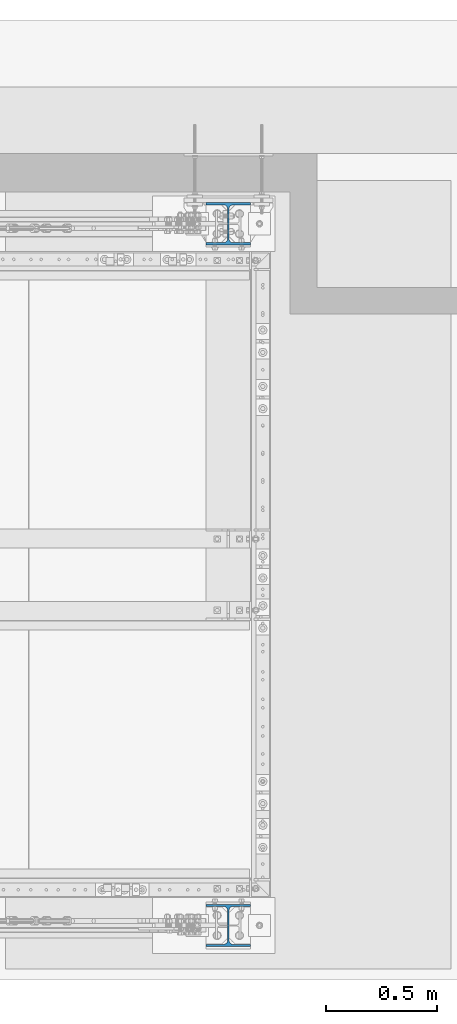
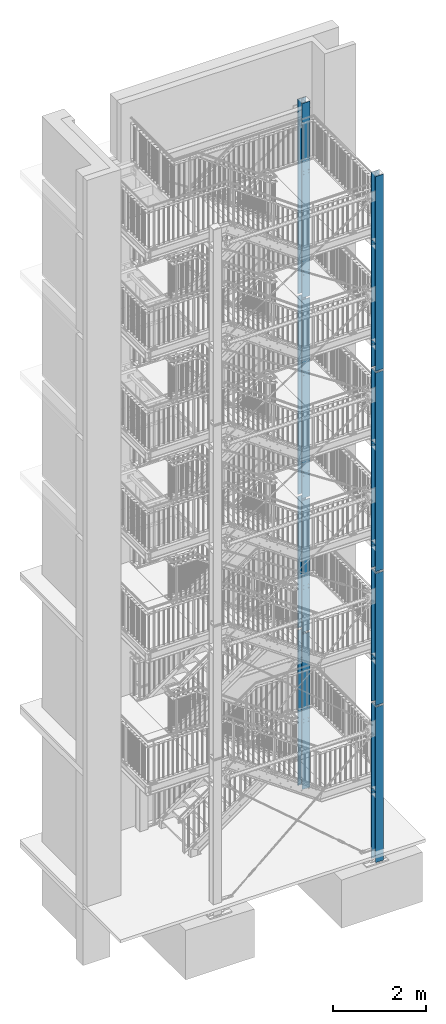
# One storey, part 2 of 825: 8 columns, 58 openings.
"""IFC2X3 building model written with IfcOpenShell, lengths in millimetres."""

import ifcopenshell
import ifcopenshell.guid

model = None  # the IFC model being written
_history = None  # IfcOwnerHistory: only IFC2X3 demands one
_inside = {}  # id of a spatial element -> (the spatial element, [elements in it])
_under = {}  # id of a project, library or spatial element -> (it, [spatial elements below it])
_declared = {}  # id of a project -> (the project, [libraries it declares])
_typed = {}  # id of a type object -> (the type object, [elements of that type])
_made_of = {}  # id of a material, layer set ... -> (it, [elements and type objects made of it])


def new_model(schema):
    """Start an empty IFC model of exactly this schema.

    Asked for "IFC4X3", IfcOpenShell would pick the latest addendum, in which some entities
    have other attributes; the version numbers below select the first issue.
    IFC2X3 requires an IfcOwnerHistory on every rooted entity: one is made here for all.
    """
    global model, _history
    if schema == "IFC4X3":
        model = ifcopenshell.file(schema_version=(4, 3, 0, 0))
    else:
        model = ifcopenshell.file(schema=schema)
    _inside.clear()
    _under.clear()
    _declared.clear()
    _typed.clear()
    _made_of.clear()
    _history = None
    if model.schema == "IFC2X3":
        org = make("IfcOrganization", Name="unknown")
        user = make(
            "IfcPersonAndOrganization",
            ThePerson=make("IfcPerson", FamilyName="unknown"),
            TheOrganization=org,
        )
        app = make(
            "IfcApplication",
            ApplicationDeveloper=org,
            Version="unknown",
            ApplicationFullName="unknown",
            ApplicationIdentifier="unknown",
        )
        _history = make(
            "IfcOwnerHistory",
            OwningUser=user,
            OwningApplication=app,
            ChangeAction="ADDED",
            CreationDate=0,
        )
    return model


def make(cls, **values):
    """One entity of the class cls with the attributes given. An attribute that is None is left unset."""
    return model.create_entity(
        cls, **{name: value for name, value in values.items() if value is not None}
    )


def entity(cls, *values):
    """Any entity or typed value of the class cls, its attributes in the order of the schema. None: left unset."""
    e = model.create_entity(cls)
    for i, value in enumerate(values):
        if value is not None:
            e[i] = value
    return e


def rooted(cls, **values):
    """An entity with a GlobalId (a new one), such as an element, a storey or a relation."""
    return make(cls, GlobalId=ifcopenshell.guid.new(), OwnerHistory=_history, **values)


def si_unit(unit_type, name, prefix=None):
    """IfcSIUnit, for example si_unit("LENGTHUNIT", "METRE", prefix="MILLI")."""
    return make("IfcSIUnit", UnitType=unit_type, Prefix=prefix, Name=name)


def converted_unit(unit_type, name, factor, base, dimensions=None, offset=None):
    """IfcConversionBasedUnit, such as the inch: factor (a typed value) times the base unit."""
    return make(
        "IfcConversionBasedUnit"
        if offset is None
        else "IfcConversionBasedUnitWithOffset",
        ConversionOffset=offset,
        Dimensions=None
        if dimensions is None
        else entity("IfcDimensionalExponents", *dimensions),
        UnitType=unit_type,
        Name=name,
        ConversionFactor=make(
            "IfcMeasureWithUnit", ValueComponent=factor, UnitComponent=base
        ),
    )


def assignment(units):
    """IfcUnitAssignment: the units of a project."""
    return None if units is None else make("IfcUnitAssignment", Units=units)


def point(xyz):
    """IfcCartesianPoint."""
    return None if xyz is None else make("IfcCartesianPoint", Coordinates=xyz)


def direction(xyz):
    """IfcDirection."""
    return None if xyz is None else make("IfcDirection", DirectionRatios=xyz)


def frame(location, z_axis=None, x_axis=None):
    """IfcAxis2Placement3D, a coordinate frame: its origin and axes. An axis left out is left unset."""
    return make(
        "IfcAxis2Placement3D",
        Location=point(location),
        Axis=direction(z_axis),
        RefDirection=direction(x_axis),
    )


def frame_2d(location, x_axis=None):
    """IfcAxis2Placement2D, a coordinate frame in the plane: its origin and x axis."""
    return make(
        "IfcAxis2Placement2D", Location=point(location), RefDirection=direction(x_axis)
    )


def origin():
    """The frame at (0, 0, 0) with its axes left unset."""
    return frame((0.0, 0.0, 0.0))


def origin_with_axes():
    """The frame at (0, 0, 0) with the z axis (0, 0, 1) and the x axis (1, 0, 0) written out."""
    return frame((0.0, 0.0, 0.0), z_axis=(0.0, 0.0, 1.0), x_axis=(1.0, 0.0, 0.0))


def origin_2d():
    """The frame at (0, 0) in the plane with its x axis left unset."""
    return frame_2d((0.0, 0.0))


def origin_2d_with_axis():
    """The frame at (0, 0) in the plane with the x axis (1, 0) written out."""
    return frame_2d((0.0, 0.0), x_axis=(1.0, 0.0))


def place(relative_to, where):
    """IfcLocalPlacement: puts the frame where relative to a parent placement (None: the world)."""
    return make(
        "IfcLocalPlacement", PlacementRelTo=relative_to, RelativePlacement=where
    )


def context(
    kind, dimensions, precision=None, world=None, true_north=None, identifier=None
):
    """IfcGeometricRepresentationContext, for example the 3D "Model" context."""
    return make(
        "IfcGeometricRepresentationContext",
        ContextIdentifier=identifier,
        ContextType=kind,
        CoordinateSpaceDimension=dimensions,
        Precision=precision,
        WorldCoordinateSystem=world,
        TrueNorth=true_north,
    )


def project(units=None, contexts=None):
    """IfcProject with its units and contexts."""
    return rooted(
        "IfcProject",
        Name="project",
        RepresentationContexts=contexts,
        UnitsInContext=assignment(units),
    )


def spatial(cls, under=None, at=None, **own):
    """A site, building, storey or space (cls), placed at a placement, below another one or the project."""
    s = rooted(cls, ObjectPlacement=at, **own)
    if under is not None:
        _under.setdefault(under.id(), (under, []))[1].append(s)
    return s


def profile(cls, at=None, kind="AREA", **sizes):
    """A parametric profile (cls). Its sizes go by their IFC names, for example OverallWidth=200.0."""
    return make(cls, ProfileType=kind, Position=at, **sizes)


def circle(**sizes):
    """IfcCircleProfileDef."""
    return profile("IfcCircleProfileDef", **sizes)


def i_section(**sizes):
    """IfcIShapeProfileDef."""
    return profile("IfcIShapeProfileDef", **sizes)


def extrude(swept, where, along, depth):
    """IfcExtrudedAreaSolid: the profile swept, set in the frame where, extruded along a direction by depth."""
    return make(
        "IfcExtrudedAreaSolid",
        SweptArea=swept,
        Position=where,
        ExtrudedDirection=direction(along),
        Depth=depth,
    )


def clip(a, b, op="DIFFERENCE"):
    """IfcBooleanClippingResult: the solid a cut by the half space b."""
    return make(
        "IfcBooleanClippingResult", Operator=op, FirstOperand=a, SecondOperand=b
    )


def halfspace(plane, agree):
    """IfcHalfSpaceSolid: all space on one side of the plane z = 0 of the frame plane."""
    return make(
        "IfcHalfSpaceSolid",
        BaseSurface=make("IfcPlane", Position=plane),
        AgreementFlag=agree,
    )


def shape(context_of_items, identifier, shape_type, items):
    """IfcShapeRepresentation: the items that make up one representation, for example the "Body"."""
    return make(
        "IfcShapeRepresentation",
        ContextOfItems=context_of_items,
        RepresentationIdentifier=identifier,
        RepresentationType=shape_type,
        Items=items,
    )


def material(Name=None, Category=None):
    """IfcMaterial."""
    return make("IfcMaterial", Name=Name, Category=Category)


def made_of(thing, what):
    """Note that an element or type object is made of a material, layer set ...; save() writes the relation."""
    if what is not None:
        _made_of.setdefault(what.id(), (what, []))[1].append(thing)
    return thing


def element(
    cls,
    number,
    at=None,
    inside=None,
    cuts=None,
    type_object=None,
    material=None,
    context=None,
    identifier="Body",
    shape_type=None,
    held_by="IfcProductDefinitionShape",
    body=None,
    shapes=None,
    **own,
):
    """One element of the class cls, such as IfcWall. Its Tag is "e" and its number.

    at: its placement. inside: the storey or other place that contains it. cuts: it is an
    opening in that element (IfcRelVoidsElement). A single representation is given by context,
    identifier, shape_type and body (its items); several are given by shapes. held_by: the class
    of the entity that holds the representations. save() writes the other relations.
    """
    e = rooted(cls, Tag="e%d" % number, ObjectPlacement=at, **own)
    if body is not None:
        shapes = [shape(context, identifier, shape_type, body)]
    if shapes is not None:
        e.Representation = make(held_by, Representations=shapes)
    if inside is not None:
        _inside.setdefault(inside.id(), (inside, []))[1].append(e)
    if cuts is not None:
        rooted(
            "IfcRelVoidsElement", RelatingBuildingElement=cuts, RelatedOpeningElement=e
        )
    if type_object is not None:
        _typed.setdefault(type_object.id(), (type_object, []))[1].append(e)
    return made_of(e, material)


def aggregate(whole, parts):
    """IfcRelAggregates: a whole, such as a stair, and the parts it consists of."""
    return rooted("IfcRelAggregates", RelatingObject=whole, RelatedObjects=parts)


def save(model, path):
    """Write the relations noted so far, then the file.

    IfcRelAggregates (storeys below a building ...), IfcRelContainedInSpatialStructure (elements
    in a storey), IfcRelDefinesByType, IfcRelAssociatesMaterial and IfcRelDeclares: one each for
    every whole, place, type object, material and project.
    """
    for whole, parts in _under.values():
        aggregate(whole, parts)
    for where, things in _inside.values():
        rooted(
            "IfcRelContainedInSpatialStructure",
            RelatedElements=things,
            RelatingStructure=where,
        )
    for kind, things in _typed.values():
        rooted("IfcRelDefinesByType", RelatedObjects=things, RelatingType=kind)
    for what, things in _made_of.values():
        rooted("IfcRelAssociatesMaterial", RelatedObjects=things, RelatingMaterial=what)
    for by, libraries in _declared.values():
        rooted("IfcRelDeclares", RelatingContext=by, RelatedDefinitions=libraries)
    model.write(path)


model = new_model("IFC2X3")

# Units and contexts
model_context = context("Model", 3, precision=1e-09, world=origin_with_axes())
ifc_project = project(units=[si_unit("LENGTHUNIT", "METRE", prefix="MILLI"), si_unit("AREAUNIT", "SQUARE_METRE"), si_unit("VOLUMEUNIT", "CUBIC_METRE"), converted_unit("PLANEANGLEUNIT", "DEGREE", entity("IfcPlaneAngleMeasure", 0.01745329), si_unit("PLANEANGLEUNIT", "RADIAN"), dimensions=[0, 0, 0, 0, 0, 0, 0])], contexts=[model_context])

# Site, building, storey
site_placement = place(None, origin_with_axes())
site = spatial("IfcSite", under=ifc_project, at=site_placement, Name="Cnopf'sche Kinderklinik", CompositionType="ELEMENT")
building_placement = place(site_placement, origin_with_axes())
building = spatial("IfcBuilding", under=site, at=building_placement, Name="Struktur 1", CompositionType="ELEMENT")
storey_placement = place(building_placement, origin_with_axes())
storey = spatial("IfcBuildingStorey", under=building, at=storey_placement, Name="Default Storey", CompositionType="ELEMENT", Elevation=0.0)

# Column, openings
ifc_material = material(Name="S235JR")
column_1_placement = place(None, frame((8866.713402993, 7516.736971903, 60.0), z_axis=(0.0, 0.0, -1.0), x_axis=(-1.0, 0.0, 0.0)))
column_1 = element("IfcColumn", 1, at=column_1_placement, inside=storey, material=ifc_material, Name="Column", ObjectType="Column", context=model_context, shape_type="Clipping", body=[
    clip(extrude(i_section(OverallWidth=200.0, OverallDepth=190.0, WebThickness=6.5, FlangeThickness=10.0, FilletRadius=18.0, at=origin_2d()), origin(), (0.0, 0.0, -1.0), 4227.931142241), halfspace(frame((8866.713402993, -7516.736971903, -4064.999), z_axis=(0.0, 0.0, 1.0), x_axis=(1.0, 0.0, 0.0)), True)),
])
opening_1_placement = place(column_1_placement, frame((-3.75, 60.0, -12.0), z_axis=(1.0, 0.0, 0.0), x_axis=(0.0, 0.0, -1.0)))
element("IfcOpeningElement", 2, at=opening_1_placement, cuts=column_1, ObjectType="Opening", context=model_context, shape_type="SweptSolid", body=[
    extrude(circle(Radius=6.001, at=origin_2d_with_axis()), origin(), (0.0, 0.0, 1.0), 7.5),
])
opening_2_placement = place(column_1_placement, frame((-3.75, -60.0, -12.0), z_axis=(1.0, 0.0, 0.0), x_axis=(0.0, 0.0, -1.0)))
element("IfcOpeningElement", 3, at=opening_2_placement, cuts=column_1, ObjectType="Opening", context=model_context, shape_type="SweptSolid", body=[
    extrude(circle(Radius=6.001, at=origin_2d_with_axis()), origin(), (0.0, 0.0, 1.0), 7.5),
])
opening_3_placement = place(column_1_placement, frame((60.0, -84.5, -1831.0526312), z_axis=(0.0, -1.0, 0.0), x_axis=(1.0, 0.0, 0.0)))
element("IfcOpeningElement", 4, at=opening_3_placement, cuts=column_1, ObjectType="Opening", context=model_context, shape_type="SweptSolid", body=[
    extrude(circle(Radius=9.001, at=origin_2d_with_axis()), origin(), (0.0, 0.0, 1.0), 11.0),
])
opening_4_placement = place(column_1_placement, frame((60.0, -84.5, -1741.0526312), z_axis=(0.0, -1.0, 0.0), x_axis=(1.0, 0.0, 0.0)))
element("IfcOpeningElement", 5, at=opening_4_placement, cuts=column_1, ObjectType="Opening", context=model_context, shape_type="SweptSolid", body=[
    extrude(circle(Radius=9.001, at=origin_2d_with_axis()), origin(), (0.0, 0.0, 1.0), 11.0),
])
opening_5_placement = place(column_1_placement, frame((-60.0, -84.5, -1741.0526312), z_axis=(0.0, -1.0, 0.0), x_axis=(-1.0, 0.0, 0.0)))
element("IfcOpeningElement", 6, at=opening_5_placement, cuts=column_1, ObjectType="Opening", context=model_context, shape_type="SweptSolid", body=[
    extrude(circle(Radius=9.001, at=origin_2d_with_axis()), origin(), (0.0, 0.0, 1.0), 11.0),
])
opening_6_placement = place(column_1_placement, frame((-60.0, -84.5, -1831.0526312), z_axis=(0.0, -1.0, 0.0), x_axis=(-1.0, 0.0, 0.0)))
element("IfcOpeningElement", 7, at=opening_6_placement, cuts=column_1, ObjectType="Opening", context=model_context, shape_type="SweptSolid", body=[
    extrude(circle(Radius=9.001, at=origin_2d_with_axis()), origin(), (0.0, 0.0, 1.0), 11.0),
])

column_2_placement = place(None, frame((8866.713402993, 4366.736971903, 60.0), z_axis=(0.0, 0.0, -1.0), x_axis=(-1.0, 0.0, 0.0)))
column_2 = element("IfcColumn", 8, at=column_2_placement, inside=storey, material=ifc_material, Name="Column", ObjectType="Column", context=model_context, shape_type="Clipping", body=[
    clip(extrude(i_section(OverallWidth=200.0, OverallDepth=190.0, WebThickness=6.5, FlangeThickness=10.0, FilletRadius=18.0, at=origin_2d()), origin(), (0.0, 0.0, -1.0), 4227.931142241), halfspace(frame((8866.713402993, -4366.736971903, -4064.999), z_axis=(0.0, 0.0, 1.0), x_axis=(1.0, 0.0, 0.0)), True)),
])
opening_7_placement = place(column_2_placement, frame((-3.75, 60.0, -12.0), z_axis=(1.0, 0.0, 0.0), x_axis=(0.0, 0.0, -1.0)))
element("IfcOpeningElement", 9, at=opening_7_placement, cuts=column_2, ObjectType="Opening", context=model_context, shape_type="SweptSolid", body=[
    extrude(circle(Radius=6.001, at=origin_2d_with_axis()), origin(), (0.0, 0.0, 1.0), 7.5),
])
opening_8_placement = place(column_2_placement, frame((-3.75, -60.0, -12.0), z_axis=(1.0, 0.0, 0.0), x_axis=(0.0, 0.0, -1.0)))
element("IfcOpeningElement", 10, at=opening_8_placement, cuts=column_2, ObjectType="Opening", context=model_context, shape_type="SweptSolid", body=[
    extrude(circle(Radius=6.001, at=origin_2d_with_axis()), origin(), (0.0, 0.0, 1.0), 7.5),
])
opening_9_placement = place(column_2_placement, frame((60.0, 84.5, -1831.0526312), z_axis=(0.0, 1.0, 0.0), x_axis=(1.0, 0.0, 0.0)))
element("IfcOpeningElement", 11, at=opening_9_placement, cuts=column_2, ObjectType="Opening", context=model_context, shape_type="SweptSolid", body=[
    extrude(circle(Radius=9.001, at=origin_2d_with_axis()), origin(), (0.0, 0.0, 1.0), 11.0),
])
opening_10_placement = place(column_2_placement, frame((60.0, 84.5, -1741.0526312), z_axis=(0.0, 1.0, 0.0), x_axis=(1.0, 0.0, 0.0)))
element("IfcOpeningElement", 12, at=opening_10_placement, cuts=column_2, ObjectType="Opening", context=model_context, shape_type="SweptSolid", body=[
    extrude(circle(Radius=9.001, at=origin_2d_with_axis()), origin(), (0.0, 0.0, 1.0), 11.0),
])
opening_11_placement = place(column_2_placement, frame((-60.0, 84.5, -1741.0526312), z_axis=(0.0, 1.0, 0.0), x_axis=(-1.0, 0.0, 0.0)))
element("IfcOpeningElement", 13, at=opening_11_placement, cuts=column_2, ObjectType="Opening", context=model_context, shape_type="SweptSolid", body=[
    extrude(circle(Radius=9.001, at=origin_2d_with_axis()), origin(), (0.0, 0.0, 1.0), 11.0),
])
opening_12_placement = place(column_2_placement, frame((-60.0, 84.5, -1831.0526312), z_axis=(0.0, 1.0, 0.0), x_axis=(-1.0, 0.0, 0.0)))
element("IfcOpeningElement", 14, at=opening_12_placement, cuts=column_2, ObjectType="Opening", context=model_context, shape_type="SweptSolid", body=[
    extrude(circle(Radius=9.001, at=origin_2d_with_axis()), origin(), (0.0, 0.0, 1.0), 11.0),
])

column_3_placement = place(None, frame((8866.713402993, 4366.736971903, 4012.068857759), z_axis=(0.0, 0.0, -1.0), x_axis=(-1.0, 0.0, 0.0)))
column_3 = element("IfcColumn", 15, at=column_3_placement, inside=storey, material=ifc_material, Name="Column", ObjectType="Column", context=model_context, shape_type="Clipping", body=[
    clip(clip(extrude(i_section(OverallWidth=200.0, OverallDepth=190.0, WebThickness=6.5, FlangeThickness=10.0, FilletRadius=18.0, at=origin_2d()), origin(), (0.0, 0.0, -1.0), 3775.862284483), halfspace(frame((8866.713402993, -4366.736971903, -162.932142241), z_axis=(0.0, 0.0, -1.0), x_axis=(-1.0, 0.0, 0.0)), True)), halfspace(frame((8866.713402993, -4366.736971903, -3612.930142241), z_axis=(0.0, 0.0, 1.0), x_axis=(1.0, 0.0, 0.0)), True)),
])
opening_13_placement = place(column_3_placement, frame((60.0, 84.5, -1372.825878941), z_axis=(0.0, 1.0, 0.0), x_axis=(1.0, 0.0, 0.0)))
element("IfcOpeningElement", 16, at=opening_13_placement, cuts=column_3, ObjectType="Opening", context=model_context, shape_type="SweptSolid", body=[
    extrude(circle(Radius=9.001, at=origin_2d_with_axis()), origin(), (0.0, 0.0, 1.0), 11.0),
])
opening_14_placement = place(column_3_placement, frame((60.0, 84.5, -1282.825878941), z_axis=(0.0, 1.0, 0.0), x_axis=(1.0, 0.0, 0.0)))
element("IfcOpeningElement", 17, at=opening_14_placement, cuts=column_3, ObjectType="Opening", context=model_context, shape_type="SweptSolid", body=[
    extrude(circle(Radius=9.001, at=origin_2d_with_axis()), origin(), (0.0, 0.0, 1.0), 11.0),
])
opening_15_placement = place(column_3_placement, frame((-60.0, 84.5, -1372.825878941), z_axis=(0.0, 1.0, 0.0), x_axis=(-1.0, 0.0, 0.0)))
element("IfcOpeningElement", 18, at=opening_15_placement, cuts=column_3, ObjectType="Opening", context=model_context, shape_type="SweptSolid", body=[
    extrude(circle(Radius=9.001, at=origin_2d_with_axis()), origin(), (0.0, 0.0, 1.0), 11.0),
])
opening_16_placement = place(column_3_placement, frame((-60.0, 84.5, -1282.825878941), z_axis=(0.0, 1.0, 0.0), x_axis=(-1.0, 0.0, 0.0)))
element("IfcOpeningElement", 19, at=opening_16_placement, cuts=column_3, ObjectType="Opening", context=model_context, shape_type="SweptSolid", body=[
    extrude(circle(Radius=9.001, at=origin_2d_with_axis()), origin(), (0.0, 0.0, 1.0), 11.0),
])

column_4_placement = place(None, frame((8866.713402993, 7516.736971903, 4012.068857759), z_axis=(0.0, 0.0, -1.0), x_axis=(-1.0, 0.0, 0.0)))
column_4 = element("IfcColumn", 20, at=column_4_placement, inside=storey, material=ifc_material, Name="Column", ObjectType="Column", context=model_context, shape_type="Clipping", body=[
    clip(clip(extrude(i_section(OverallWidth=200.0, OverallDepth=190.0, WebThickness=6.5, FlangeThickness=10.0, FilletRadius=18.0, at=origin_2d()), origin(), (0.0, 0.0, -1.0), 3775.862284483), halfspace(frame((8866.713402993, -7516.736971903, -162.932142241), z_axis=(0.0, 0.0, -1.0), x_axis=(-1.0, 0.0, 0.0)), True)), halfspace(frame((8866.713402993, -7516.736971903, -3612.930142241), z_axis=(0.0, 0.0, 1.0), x_axis=(1.0, 0.0, 0.0)), True)),
])
opening_17_placement = place(column_4_placement, frame((-60.0, -84.5, -1372.825878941), z_axis=(0.0, -1.0, 0.0), x_axis=(-1.0, 0.0, 0.0)))
element("IfcOpeningElement", 21, at=opening_17_placement, cuts=column_4, ObjectType="Opening", context=model_context, shape_type="SweptSolid", body=[
    extrude(circle(Radius=9.001, at=origin_2d_with_axis()), origin(), (0.0, 0.0, 1.0), 11.0),
])
opening_18_placement = place(column_4_placement, frame((-60.0, -84.5, -1282.825878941), z_axis=(0.0, -1.0, 0.0), x_axis=(-1.0, 0.0, 0.0)))
element("IfcOpeningElement", 22, at=opening_18_placement, cuts=column_4, ObjectType="Opening", context=model_context, shape_type="SweptSolid", body=[
    extrude(circle(Radius=9.001, at=origin_2d_with_axis()), origin(), (0.0, 0.0, 1.0), 11.0),
])
opening_19_placement = place(column_4_placement, frame((60.0, -84.5, -1372.825878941), z_axis=(0.0, -1.0, 0.0), x_axis=(1.0, 0.0, 0.0)))
element("IfcOpeningElement", 23, at=opening_19_placement, cuts=column_4, ObjectType="Opening", context=model_context, shape_type="SweptSolid", body=[
    extrude(circle(Radius=9.001, at=origin_2d_with_axis()), origin(), (0.0, 0.0, 1.0), 11.0),
])
opening_20_placement = place(column_4_placement, frame((60.0, -84.5, -1282.825878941), z_axis=(0.0, -1.0, 0.0), x_axis=(1.0, 0.0, 0.0)))
element("IfcOpeningElement", 24, at=opening_20_placement, cuts=column_4, ObjectType="Opening", context=model_context, shape_type="SweptSolid", body=[
    extrude(circle(Radius=9.001, at=origin_2d_with_axis()), origin(), (0.0, 0.0, 1.0), 11.0),
])

column_5_placement = place(None, frame((8866.713402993, 7516.736971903, 7512.068857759), z_axis=(0.0, 0.0, -1.0), x_axis=(-1.0, 0.0, 0.0)))
column_5 = element("IfcColumn", 25, at=column_5_placement, inside=storey, material=ifc_material, Name="Column", ObjectType="Column", context=model_context, shape_type="Clipping", body=[
    clip(clip(extrude(i_section(OverallWidth=200.0, OverallDepth=190.0, WebThickness=6.5, FlangeThickness=10.0, FilletRadius=18.0, at=origin_2d()), origin(), (0.0, 0.0, -1.0), 5525.862284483), halfspace(frame((8866.713402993, -7516.736971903, -162.932142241), z_axis=(0.0, 0.0, -1.0), x_axis=(-1.0, 0.0, 0.0)), True)), halfspace(frame((8866.713402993, -7516.736971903, -5362.930142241), z_axis=(0.0, 0.0, 1.0), x_axis=(1.0, 0.0, 0.0)), True)),
])
opening_21_placement = place(column_5_placement, frame((-60.0, -84.5, -3463.431142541), z_axis=(0.0, -1.0, 0.0), x_axis=(-1.0, 0.0, 0.0)))
element("IfcOpeningElement", 26, at=opening_21_placement, cuts=column_5, ObjectType="Opening", context=model_context, shape_type="SweptSolid", body=[
    extrude(circle(Radius=9.001, at=origin_2d_with_axis()), origin(), (0.0, 0.0, 1.0), 11.0),
])
opening_22_placement = place(column_5_placement, frame((60.0, -84.5, -3463.431142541), z_axis=(0.0, -1.0, 0.0), x_axis=(1.0, 0.0, 0.0)))
element("IfcOpeningElement", 27, at=opening_22_placement, cuts=column_5, ObjectType="Opening", context=model_context, shape_type="SweptSolid", body=[
    extrude(circle(Radius=9.001, at=origin_2d_with_axis()), origin(), (0.0, 0.0, 1.0), 11.0),
])
opening_23_placement = place(column_5_placement, frame((-60.0, -84.5, -3373.431142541), z_axis=(0.0, -1.0, 0.0), x_axis=(-1.0, 0.0, 0.0)))
element("IfcOpeningElement", 28, at=opening_23_placement, cuts=column_5, ObjectType="Opening", context=model_context, shape_type="SweptSolid", body=[
    extrude(circle(Radius=9.001, at=origin_2d_with_axis()), origin(), (0.0, 0.0, 1.0), 11.0),
])
opening_24_placement = place(column_5_placement, frame((60.0, -84.5, -3373.431142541), z_axis=(0.0, -1.0, 0.0), x_axis=(1.0, 0.0, 0.0)))
element("IfcOpeningElement", 29, at=opening_24_placement, cuts=column_5, ObjectType="Opening", context=model_context, shape_type="SweptSolid", body=[
    extrude(circle(Radius=9.001, at=origin_2d_with_axis()), origin(), (0.0, 0.0, 1.0), 11.0),
])
opening_25_placement = place(column_5_placement, frame((-60.0, -84.5, -833.931142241), z_axis=(0.0, -1.0, 0.0), x_axis=(-1.0, 0.0, 0.0)))
element("IfcOpeningElement", 30, at=opening_25_placement, cuts=column_5, ObjectType="Opening", context=model_context, shape_type="SweptSolid", body=[
    extrude(circle(Radius=9.001, at=origin_2d_with_axis()), origin(), (0.0, 0.0, 1.0), 11.0),
])
opening_26_placement = place(column_5_placement, frame((-60.0, -84.5, -743.931142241), z_axis=(0.0, -1.0, 0.0), x_axis=(-1.0, 0.0, 0.0)))
element("IfcOpeningElement", 31, at=opening_26_placement, cuts=column_5, ObjectType="Opening", context=model_context, shape_type="SweptSolid", body=[
    extrude(circle(Radius=9.001, at=origin_2d_with_axis()), origin(), (0.0, 0.0, 1.0), 11.0),
])
opening_27_placement = place(column_5_placement, frame((60.0, -84.5, -743.931142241), z_axis=(0.0, -1.0, 0.0), x_axis=(1.0, 0.0, 0.0)))
element("IfcOpeningElement", 32, at=opening_27_placement, cuts=column_5, ObjectType="Opening", context=model_context, shape_type="SweptSolid", body=[
    extrude(circle(Radius=9.001, at=origin_2d_with_axis()), origin(), (0.0, 0.0, 1.0), 11.0),
])
opening_28_placement = place(column_5_placement, frame((60.0, -84.5, -833.931142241), z_axis=(0.0, -1.0, 0.0), x_axis=(1.0, 0.0, 0.0)))
element("IfcOpeningElement", 33, at=opening_28_placement, cuts=column_5, ObjectType="Opening", context=model_context, shape_type="SweptSolid", body=[
    extrude(circle(Radius=9.001, at=origin_2d_with_axis()), origin(), (0.0, 0.0, 1.0), 11.0),
])

column_6_placement = place(None, frame((8866.713402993, 7516.736971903, 12762.068857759), z_axis=(0.0, 0.0, -1.0), x_axis=(-1.0, 0.0, 0.0)))
column_6 = element("IfcColumn", 34, at=column_6_placement, inside=storey, material=ifc_material, Name="Column", ObjectType="Column", context=model_context, shape_type="Clipping", body=[
    clip(extrude(i_section(OverallWidth=200.0, OverallDepth=190.0, WebThickness=6.5, FlangeThickness=10.0, FilletRadius=18.0, at=origin_2d()), origin(), (0.0, 0.0, -1.0), 5251.931142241), halfspace(frame((8866.713402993, -7516.736971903, -162.932142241), z_axis=(0.0, 0.0, -1.0), x_axis=(-1.0, 0.0, 0.0)), True)),
])
opening_29_placement = place(column_6_placement, frame((-3.75, -35.0, -4891.93114224), z_axis=(1.0, 0.0, 0.0), x_axis=(0.0, -1.0, 0.0)))
element("IfcOpeningElement", 35, at=opening_29_placement, cuts=column_6, ObjectType="Opening", context=model_context, shape_type="SweptSolid", body=[
    extrude(circle(Radius=9.001, at=origin_2d_with_axis()), origin(), (0.0, 0.0, 1.0), 7.5),
])
opening_30_placement = place(column_6_placement, frame((-3.75, 35.0, -4891.93114224), z_axis=(1.0, 0.0, 0.0), x_axis=(0.0, 1.0, 0.0)))
element("IfcOpeningElement", 36, at=opening_30_placement, cuts=column_6, ObjectType="Opening", context=model_context, shape_type="SweptSolid", body=[
    extrude(circle(Radius=9.001, at=origin_2d_with_axis()), origin(), (0.0, 0.0, 1.0), 7.5),
])
opening_31_placement = place(column_6_placement, frame((-3.75, -35.0, -5111.93114224), z_axis=(1.0, 0.0, 0.0), x_axis=(0.0, -1.0, 0.0)))
element("IfcOpeningElement", 37, at=opening_31_placement, cuts=column_6, ObjectType="Opening", context=model_context, shape_type="SweptSolid", body=[
    extrude(circle(Radius=9.001, at=origin_2d_with_axis()), origin(), (0.0, 0.0, 1.0), 7.5),
])
opening_32_placement = place(column_6_placement, frame((-3.75, 35.0, -5111.93114224), z_axis=(1.0, 0.0, 0.0), x_axis=(0.0, 1.0, 0.0)))
element("IfcOpeningElement", 38, at=opening_32_placement, cuts=column_6, ObjectType="Opening", context=model_context, shape_type="SweptSolid", body=[
    extrude(circle(Radius=9.001, at=origin_2d_with_axis()), origin(), (0.0, 0.0, 1.0), 7.5),
])
opening_33_placement = place(column_6_placement, frame((-3.75, 35.0, -5011.93114224), z_axis=(1.0, 0.0, 0.0), x_axis=(0.0, 1.0, 0.0)))
element("IfcOpeningElement", 39, at=opening_33_placement, cuts=column_6, ObjectType="Opening", context=model_context, shape_type="SweptSolid", body=[
    extrude(circle(Radius=9.001, at=origin_2d_with_axis()), origin(), (0.0, 0.0, 1.0), 7.5),
])
opening_34_placement = place(column_6_placement, frame((-3.75, -35.0, -5011.93114224), z_axis=(1.0, 0.0, 0.0), x_axis=(0.0, -1.0, 0.0)))
element("IfcOpeningElement", 40, at=opening_34_placement, cuts=column_6, ObjectType="Opening", context=model_context, shape_type="SweptSolid", body=[
    extrude(circle(Radius=9.001, at=origin_2d_with_axis()), origin(), (0.0, 0.0, 1.0), 7.5),
])
opening_35_placement = place(column_6_placement, frame((60.0, -84.5, -844.431142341), z_axis=(0.0, -1.0, 0.0), x_axis=(1.0, 0.0, 0.0)))
element("IfcOpeningElement", 41, at=opening_35_placement, cuts=column_6, ObjectType="Opening", context=model_context, shape_type="SweptSolid", body=[
    extrude(circle(Radius=9.001, at=origin_2d_with_axis()), origin(), (0.0, 0.0, 1.0), 11.0),
])
opening_36_placement = place(column_6_placement, frame((60.0, -84.5, -754.431142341), z_axis=(0.0, -1.0, 0.0), x_axis=(1.0, 0.0, 0.0)))
element("IfcOpeningElement", 42, at=opening_36_placement, cuts=column_6, ObjectType="Opening", context=model_context, shape_type="SweptSolid", body=[
    extrude(circle(Radius=9.001, at=origin_2d_with_axis()), origin(), (0.0, 0.0, 1.0), 11.0),
])
opening_37_placement = place(column_6_placement, frame((-60.0, -84.5, -3471.931142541), z_axis=(0.0, -1.0, 0.0), x_axis=(-1.0, 0.0, 0.0)))
element("IfcOpeningElement", 43, at=opening_37_placement, cuts=column_6, ObjectType="Opening", context=model_context, shape_type="SweptSolid", body=[
    extrude(circle(Radius=9.001, at=origin_2d_with_axis()), origin(), (0.0, 0.0, 1.0), 11.0),
])
opening_38_placement = place(column_6_placement, frame((-60.0, -84.5, -3381.931142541), z_axis=(0.0, -1.0, 0.0), x_axis=(-1.0, 0.0, 0.0)))
element("IfcOpeningElement", 44, at=opening_38_placement, cuts=column_6, ObjectType="Opening", context=model_context, shape_type="SweptSolid", body=[
    extrude(circle(Radius=9.001, at=origin_2d_with_axis()), origin(), (0.0, 0.0, 1.0), 11.0),
])
opening_39_placement = place(column_6_placement, frame((-60.0, -84.5, -754.431142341), z_axis=(0.0, -1.0, 0.0), x_axis=(-1.0, 0.0, 0.0)))
element("IfcOpeningElement", 45, at=opening_39_placement, cuts=column_6, ObjectType="Opening", context=model_context, shape_type="SweptSolid", body=[
    extrude(circle(Radius=9.001, at=origin_2d_with_axis()), origin(), (0.0, 0.0, 1.0), 11.0),
])
opening_40_placement = place(column_6_placement, frame((60.0, -84.5, -3471.931142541), z_axis=(0.0, -1.0, 0.0), x_axis=(1.0, 0.0, 0.0)))
element("IfcOpeningElement", 46, at=opening_40_placement, cuts=column_6, ObjectType="Opening", context=model_context, shape_type="SweptSolid", body=[
    extrude(circle(Radius=9.001, at=origin_2d_with_axis()), origin(), (0.0, 0.0, 1.0), 11.0),
])
opening_41_placement = place(column_6_placement, frame((-60.0, -84.5, -844.431142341), z_axis=(0.0, -1.0, 0.0), x_axis=(-1.0, 0.0, 0.0)))
element("IfcOpeningElement", 47, at=opening_41_placement, cuts=column_6, ObjectType="Opening", context=model_context, shape_type="SweptSolid", body=[
    extrude(circle(Radius=9.001, at=origin_2d_with_axis()), origin(), (0.0, 0.0, 1.0), 11.0),
])
opening_42_placement = place(column_6_placement, frame((60.0, -84.5, -3381.931142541), z_axis=(0.0, -1.0, 0.0), x_axis=(1.0, 0.0, 0.0)))
element("IfcOpeningElement", 48, at=opening_42_placement, cuts=column_6, ObjectType="Opening", context=model_context, shape_type="SweptSolid", body=[
    extrude(circle(Radius=9.001, at=origin_2d_with_axis()), origin(), (0.0, 0.0, 1.0), 11.0),
])

column_7_placement = place(None, frame((8866.713402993, 4366.736971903, 7512.068857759), z_axis=(0.0, 0.0, -1.0), x_axis=(-1.0, 0.0, 0.0)))
column_7 = element("IfcColumn", 49, at=column_7_placement, inside=storey, material=ifc_material, Name="Column", ObjectType="Column", context=model_context, shape_type="Clipping", body=[
    clip(clip(extrude(i_section(OverallWidth=200.0, OverallDepth=190.0, WebThickness=6.5, FlangeThickness=10.0, FilletRadius=18.0, at=origin_2d()), origin(), (0.0, 0.0, -1.0), 5525.862284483), halfspace(frame((8866.713402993, -4366.736971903, -162.932142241), z_axis=(0.0, 0.0, -1.0), x_axis=(-1.0, 0.0, 0.0)), True)), halfspace(frame((8866.713402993, -4366.736971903, -5362.930142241), z_axis=(0.0, 0.0, 1.0), x_axis=(1.0, 0.0, 0.0)), True)),
])
opening_43_placement = place(column_7_placement, frame((-60.0, 84.5, -3373.431142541), z_axis=(0.0, 1.0, 0.0), x_axis=(-1.0, 0.0, 0.0)))
element("IfcOpeningElement", 50, at=opening_43_placement, cuts=column_7, ObjectType="Opening", context=model_context, shape_type="SweptSolid", body=[
    extrude(circle(Radius=9.001, at=origin_2d_with_axis()), origin(), (0.0, 0.0, 1.0), 11.0),
])
opening_44_placement = place(column_7_placement, frame((60.0, 84.5, -833.931142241), z_axis=(0.0, 1.0, 0.0), x_axis=(1.0, 0.0, 0.0)))
element("IfcOpeningElement", 51, at=opening_44_placement, cuts=column_7, ObjectType="Opening", context=model_context, shape_type="SweptSolid", body=[
    extrude(circle(Radius=9.001, at=origin_2d_with_axis()), origin(), (0.0, 0.0, 1.0), 11.0),
])
opening_45_placement = place(column_7_placement, frame((60.0, 84.5, -3463.431142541), z_axis=(0.0, 1.0, 0.0), x_axis=(1.0, 0.0, 0.0)))
element("IfcOpeningElement", 52, at=opening_45_placement, cuts=column_7, ObjectType="Opening", context=model_context, shape_type="SweptSolid", body=[
    extrude(circle(Radius=9.001, at=origin_2d_with_axis()), origin(), (0.0, 0.0, 1.0), 11.0),
])
opening_46_placement = place(column_7_placement, frame((60.0, 84.5, -3373.431142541), z_axis=(0.0, 1.0, 0.0), x_axis=(1.0, 0.0, 0.0)))
element("IfcOpeningElement", 53, at=opening_46_placement, cuts=column_7, ObjectType="Opening", context=model_context, shape_type="SweptSolid", body=[
    extrude(circle(Radius=9.001, at=origin_2d_with_axis()), origin(), (0.0, 0.0, 1.0), 11.0),
])
opening_47_placement = place(column_7_placement, frame((-60.0, 84.5, -833.931142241), z_axis=(0.0, 1.0, 0.0), x_axis=(-1.0, 0.0, 0.0)))
element("IfcOpeningElement", 54, at=opening_47_placement, cuts=column_7, ObjectType="Opening", context=model_context, shape_type="SweptSolid", body=[
    extrude(circle(Radius=9.001, at=origin_2d_with_axis()), origin(), (0.0, 0.0, 1.0), 11.0),
])
opening_48_placement = place(column_7_placement, frame((-60.0, 84.5, -3463.431142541), z_axis=(0.0, 1.0, 0.0), x_axis=(-1.0, 0.0, 0.0)))
element("IfcOpeningElement", 55, at=opening_48_placement, cuts=column_7, ObjectType="Opening", context=model_context, shape_type="SweptSolid", body=[
    extrude(circle(Radius=9.001, at=origin_2d_with_axis()), origin(), (0.0, 0.0, 1.0), 11.0),
])
opening_49_placement = place(column_7_placement, frame((-60.0, 84.5, -743.931142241), z_axis=(0.0, 1.0, 0.0), x_axis=(-1.0, 0.0, 0.0)))
element("IfcOpeningElement", 56, at=opening_49_placement, cuts=column_7, ObjectType="Opening", context=model_context, shape_type="SweptSolid", body=[
    extrude(circle(Radius=9.001, at=origin_2d_with_axis()), origin(), (0.0, 0.0, 1.0), 11.0),
])
opening_50_placement = place(column_7_placement, frame((60.0, 84.5, -743.931142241), z_axis=(0.0, 1.0, 0.0), x_axis=(1.0, 0.0, 0.0)))
element("IfcOpeningElement", 57, at=opening_50_placement, cuts=column_7, ObjectType="Opening", context=model_context, shape_type="SweptSolid", body=[
    extrude(circle(Radius=9.001, at=origin_2d_with_axis()), origin(), (0.0, 0.0, 1.0), 11.0),
])

column_8_placement = place(None, frame((8866.713402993, 4366.736971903, 12762.068857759), z_axis=(0.0, 0.0, -1.0), x_axis=(-1.0, 0.0, 0.0)))
column_8 = element("IfcColumn", 58, at=column_8_placement, inside=storey, material=ifc_material, Name="Column", ObjectType="Column", context=model_context, shape_type="Clipping", body=[
    clip(extrude(i_section(OverallWidth=200.0, OverallDepth=190.0, WebThickness=6.5, FlangeThickness=10.0, FilletRadius=18.0, at=origin_2d()), origin(), (0.0, 0.0, -1.0), 5251.931142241), halfspace(frame((8866.713402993, -4366.736971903, -162.932142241), z_axis=(0.0, 0.0, -1.0), x_axis=(-1.0, 0.0, 0.0)), True)),
])
opening_51_placement = place(column_8_placement, frame((60.0, 84.5, -3471.931142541), z_axis=(0.0, 1.0, 0.0), x_axis=(1.0, 0.0, 0.0)))
element("IfcOpeningElement", 59, at=opening_51_placement, cuts=column_8, ObjectType="Opening", context=model_context, shape_type="SweptSolid", body=[
    extrude(circle(Radius=9.001, at=origin_2d_with_axis()), origin(), (0.0, 0.0, 1.0), 11.0),
])
opening_52_placement = place(column_8_placement, frame((-60.0, 84.5, -754.431142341), z_axis=(0.0, 1.0, 0.0), x_axis=(-1.0, 0.0, 0.0)))
element("IfcOpeningElement", 60, at=opening_52_placement, cuts=column_8, ObjectType="Opening", context=model_context, shape_type="SweptSolid", body=[
    extrude(circle(Radius=9.001, at=origin_2d_with_axis()), origin(), (0.0, 0.0, 1.0), 11.0),
])
opening_53_placement = place(column_8_placement, frame((60.0, 84.5, -3381.931142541), z_axis=(0.0, 1.0, 0.0), x_axis=(1.0, 0.0, 0.0)))
element("IfcOpeningElement", 61, at=opening_53_placement, cuts=column_8, ObjectType="Opening", context=model_context, shape_type="SweptSolid", body=[
    extrude(circle(Radius=9.001, at=origin_2d_with_axis()), origin(), (0.0, 0.0, 1.0), 11.0),
])
opening_54_placement = place(column_8_placement, frame((-60.0, 84.5, -3471.931142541), z_axis=(0.0, 1.0, 0.0), x_axis=(-1.0, 0.0, 0.0)))
element("IfcOpeningElement", 62, at=opening_54_placement, cuts=column_8, ObjectType="Opening", context=model_context, shape_type="SweptSolid", body=[
    extrude(circle(Radius=9.001, at=origin_2d_with_axis()), origin(), (0.0, 0.0, 1.0), 11.0),
])
opening_55_placement = place(column_8_placement, frame((60.0, 84.5, -754.431142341), z_axis=(0.0, 1.0, 0.0), x_axis=(1.0, 0.0, 0.0)))
element("IfcOpeningElement", 63, at=opening_55_placement, cuts=column_8, ObjectType="Opening", context=model_context, shape_type="SweptSolid", body=[
    extrude(circle(Radius=9.001, at=origin_2d_with_axis()), origin(), (0.0, 0.0, 1.0), 11.0),
])
opening_56_placement = place(column_8_placement, frame((60.0, 84.5, -844.431142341), z_axis=(0.0, 1.0, 0.0), x_axis=(1.0, 0.0, 0.0)))
element("IfcOpeningElement", 64, at=opening_56_placement, cuts=column_8, ObjectType="Opening", context=model_context, shape_type="SweptSolid", body=[
    extrude(circle(Radius=9.001, at=origin_2d_with_axis()), origin(), (0.0, 0.0, 1.0), 11.0),
])
opening_57_placement = place(column_8_placement, frame((-60.0, 84.5, -3381.931142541), z_axis=(0.0, 1.0, 0.0), x_axis=(-1.0, 0.0, 0.0)))
element("IfcOpeningElement", 65, at=opening_57_placement, cuts=column_8, ObjectType="Opening", context=model_context, shape_type="SweptSolid", body=[
    extrude(circle(Radius=9.001, at=origin_2d_with_axis()), origin(), (0.0, 0.0, 1.0), 11.0),
])
opening_58_placement = place(column_8_placement, frame((-60.0, 84.5, -844.431142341), z_axis=(0.0, 1.0, 0.0), x_axis=(-1.0, 0.0, 0.0)))
element("IfcOpeningElement", 66, at=opening_58_placement, cuts=column_8, ObjectType="Opening", context=model_context, shape_type="SweptSolid", body=[
    extrude(circle(Radius=9.001, at=origin_2d_with_axis()), origin(), (0.0, 0.0, 1.0), 11.0),
])

save(model, "model.ifc")
